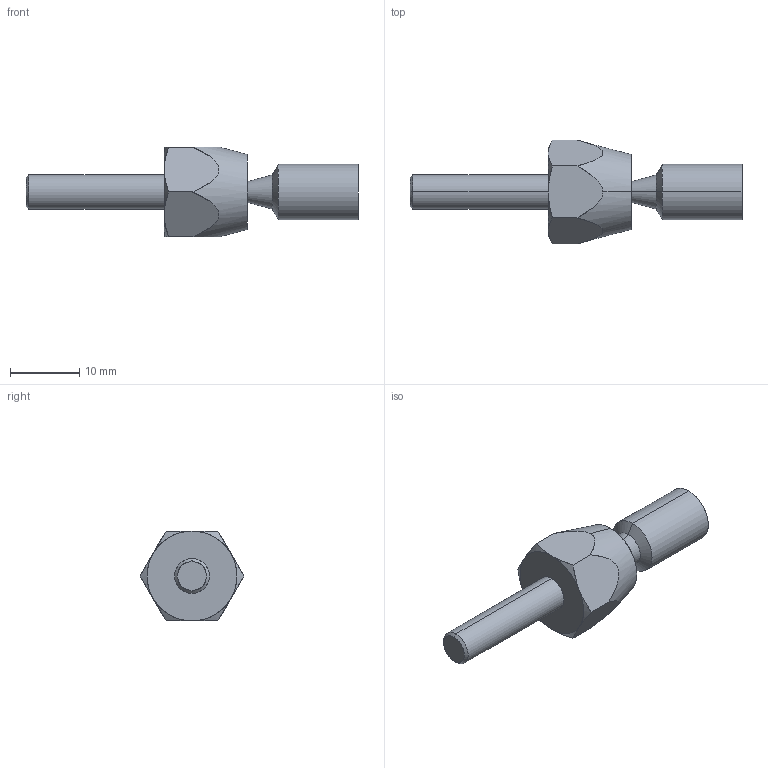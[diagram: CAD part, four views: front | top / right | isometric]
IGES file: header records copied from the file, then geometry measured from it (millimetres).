
Start section: SolidWorks IGES file using analytic representation for surfaces
Bounding box: 48 x 15.01 x 13 mm (x, y, z)
Surface area: 1599.6 mm2 (no closed solid volume)
Topology: 0 solids, 0 shells, 32 faces, 512 edges, 510 vertices
Faces by surface type: revolution 22, bspline 10
